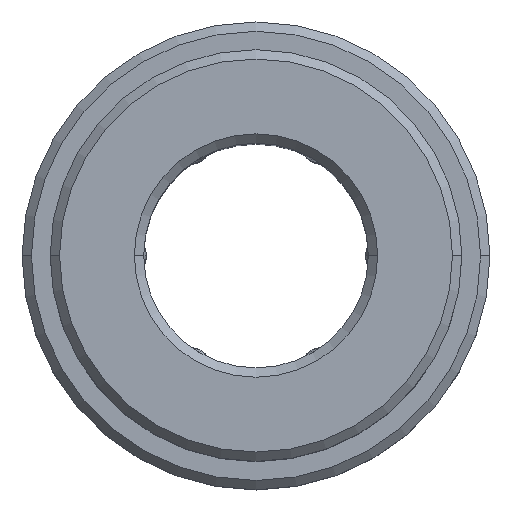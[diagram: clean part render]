
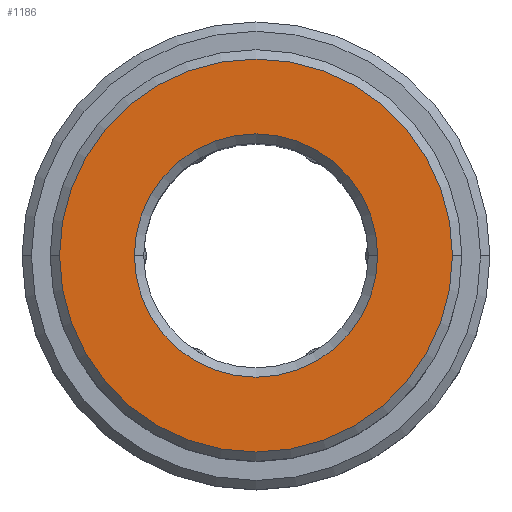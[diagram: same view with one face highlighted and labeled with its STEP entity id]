
A CAD part, top view. The second image highlights one B-rep face of the part: STEP entity #1186.
In plain terms, the highlighted planar face has unit normal (0, 0, 1).
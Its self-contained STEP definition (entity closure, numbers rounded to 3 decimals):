
#293=CARTESIAN_POINT('',(0.,0.,17.));
#294=DIRECTION('',(0.,0.,-1.));
#295=DIRECTION('',(1.,0.,0.));
#296=AXIS2_PLACEMENT_3D('',#293,#294,#295);
#298=CARTESIAN_POINT('',(0.,0.,
17.));
#299=DIRECTION('',(0.,0.,-1.));
#300=DIRECTION('',(-1.,0.,0.));
#301=AXIS2_PLACEMENT_3D('',#298,#299,#300);
#303=CARTESIAN_POINT('',(0.,0.,17.));
#304=DIRECTION('',(0.,0.,-1.));
#305=DIRECTION('',(-1.,0.,0.));
#306=AXIS2_PLACEMENT_3D('',#303,#304,#305);
#308=CARTESIAN_POINT('',(0.,0.,17.));
#309=DIRECTION('',(0.,0.,-1.));
#310=DIRECTION('',(1.,0.,0.));
#311=AXIS2_PLACEMENT_3D('',#308,#309,#310);
#1005=CARTESIAN_POINT('',(10.5,0.,17.));
#1006=CARTESIAN_POINT('',(-10.5,0.,17.));
#1007=VERTEX_POINT('',#1005);
#1008=VERTEX_POINT('',#1006);
#1009=CARTESIAN_POINT('',(-6.5,0.,17.));
#1010=CARTESIAN_POINT('',(6.5,0.,17.));
#1011=VERTEX_POINT('',#1009);
#1012=VERTEX_POINT('',#1010);
#1171=CARTESIAN_POINT('',(0.,0.,17.));
#1172=DIRECTION('',(0.,0.,1.));
#1173=DIRECTION('',(-1.,0.,0.));
#1174=AXIS2_PLACEMENT_3D('',#1171,#1172,#1173);
#1175=PLANE('',#1174);
#1176=ORIENTED_EDGE('',*,*,#1122,.T.);
#1177=ORIENTED_EDGE('',*,*,#1165,.T.);
#1178=EDGE_LOOP('',(#1176,#1177));
#1179=FACE_OUTER_BOUND('',#1178,.F.);
#1181=ORIENTED_EDGE('',*,*,#1180,.F.);
#1183=ORIENTED_EDGE('',*,*,#1182,.F.);
#1184=EDGE_LOOP('',(#1181,#1183));
#1185=FACE_BOUND('',#1184,.F.);
#1186=ADVANCED_FACE('',(#1179,#1185),#1175,.T.);
#297=CIRCLE('',#296,10.5);
#302=CIRCLE('',#301,10.5);
#307=CIRCLE('',#306,6.5);
#312=CIRCLE('',#311,6.5);
#1122=EDGE_CURVE('',#1007,#1008,#297,.T.);
#1165=EDGE_CURVE('',#1008,#1007,#302,.T.);
#1180=EDGE_CURVE('',#1011,#1012,#307,.T.);
#1182=EDGE_CURVE('',#1012,#1011,#312,.T.);
